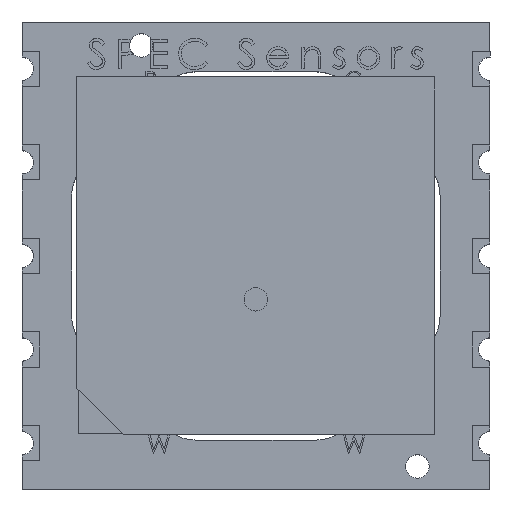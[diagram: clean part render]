
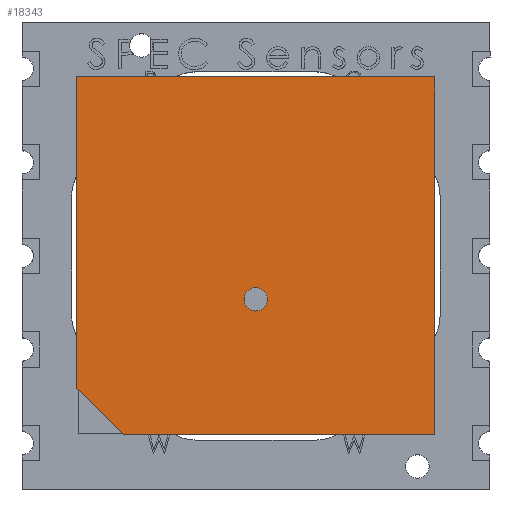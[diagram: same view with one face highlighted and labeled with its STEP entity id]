
A CAD part, top view. The second image highlights one B-rep face of the part: STEP entity #18343.
In plain terms, the highlighted planar face has unit normal (0, 0, 1).
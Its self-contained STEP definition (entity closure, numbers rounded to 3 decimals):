
#284 = EDGE_CURVE ( 'NONE', #3962, #7233, #21982, .T. ) ;
#900 = ORIENTED_EDGE ( 'NONE', *, *, #26154, .T. ) ;
#3250 = EDGE_LOOP ( 'NONE', ( #17707 ) ) ;
#3587 = CARTESIAN_POINT ( 'NONE',  ( 0., 0., 0.389 ) ) ;
#3831 = VERTEX_POINT ( 'NONE', #11724 ) ;
#3962 = VERTEX_POINT ( 'NONE', #17091 ) ;
#4600 = EDGE_CURVE ( 'NONE', #16653, #3962, #15612, .T. ) ;
#5348 = ORIENTED_EDGE ( 'NONE', *, *, #9366, .T. ) ;
#5782 = DIRECTION ( 'NONE',  ( 0., 1., 0. ) ) ;
#6059 = ORIENTED_EDGE ( 'NONE', *, *, #284, .T. ) ;
#6564 = DIRECTION ( 'NONE',  ( 1., 0., 0. ) ) ;
#7233 = VERTEX_POINT ( 'NONE', #23272 ) ;
#8119 = VERTEX_POINT ( 'NONE', #17325 ) ;
#8447 = DIRECTION ( 'NONE',  ( 0., 0., 1. ) ) ;
#8600 = EDGE_CURVE ( 'NONE', #3831, #16653, #22907, .T. ) ;
#8601 = CARTESIAN_POINT ( 'NONE',  ( -4.712, 22.389, 0.389 ) ) ;
#9260 = CIRCLE ( 'NONE', #23357, 0.5 ) ;
#9366 = EDGE_CURVE ( 'NONE', #28489, #3831, #17652, .T. ) ;
#9505 = CARTESIAN_POINT ( 'NONE',  ( -20.012, 9.089, 0.389 ) ) ;
#10124 = DIRECTION ( 'NONE',  ( 0., 0., 1. ) ) ;
#11364 = FACE_OUTER_BOUND ( 'NONE', #22616, .T. ) ;
#11724 = CARTESIAN_POINT ( 'NONE',  ( -20.012, 22.389, 0.389 ) ) ;
#13261 = ORIENTED_EDGE ( 'NONE', *, *, #4600, .T. ) ;
#13594 = DIRECTION ( 'NONE',  ( 1., 0., 0. ) ) ;
#14583 = CARTESIAN_POINT ( 'NONE',  ( -20.012, 22.389, 0.389 ) ) ;
#14914 = VECTOR ( 'NONE', #18464, 1000. ) ;
#15612 = LINE ( 'NONE', #25091, #14914 ) ;
#15688 = CARTESIAN_POINT ( 'NONE',  ( -18.012, 7.089, 0.389 ) ) ;
#16653 = VERTEX_POINT ( 'NONE', #9505 ) ;
#17026 = DIRECTION ( 'NONE',  ( -1., 0., 0. ) ) ;
#17091 = CARTESIAN_POINT ( 'NONE',  ( -18.012, 7.089, 0.389 ) ) ;
#17248 = PLANE ( 'NONE',  #26890 ) ;
#17325 = CARTESIAN_POINT ( 'NONE',  ( -11.862, 12.884, 0.389 ) ) ;
#17652 = LINE ( 'NONE', #14583, #22885 ) ;
#17707 = ORIENTED_EDGE ( 'NONE', *, *, #23728, .F. ) ;
#18343 = ADVANCED_FACE ( 'NONE', ( #23577, #11364 ), #17248, .T. ) ;
#18464 = DIRECTION ( 'NONE',  ( 0.707, -0.707, 0. ) ) ;
#19167 = CARTESIAN_POINT ( 'NONE',  ( -4.712, 22.389, 0.389 ) ) ;
#19546 = DIRECTION ( 'NONE',  ( 0., -1., 0. ) ) ;
#19588 = CARTESIAN_POINT ( 'NONE',  ( -12.362, 12.884, 0.389 ) ) ;
#20214 = VECTOR ( 'NONE', #5782, 1000. ) ;
#21982 = LINE ( 'NONE', #15688, #27214 ) ;
#22616 = EDGE_LOOP ( 'NONE', ( #900, #5348, #25905, #13261, #6059 ) ) ;
#22630 = LINE ( 'NONE', #19167, #20214 ) ;
#22885 = VECTOR ( 'NONE', #17026, 1000. ) ;
#22907 = LINE ( 'NONE', #23809, #25334 ) ;
#23272 = CARTESIAN_POINT ( 'NONE',  ( -4.712, 7.089, 0.389 ) ) ;
#23357 = AXIS2_PLACEMENT_3D ( 'NONE', #19588, #8447, #6564 ) ;
#23577 = FACE_BOUND ( 'NONE', #3250, .T. ) ;
#23728 = EDGE_CURVE ( 'NONE', #8119, #8119, #9260, .T. ) ;
#23809 = CARTESIAN_POINT ( 'NONE',  ( -20.012, 22.389, 0.389 ) ) ;
#25091 = CARTESIAN_POINT ( 'NONE',  ( -20.012, 9.089, 0.389 ) ) ;
#25334 = VECTOR ( 'NONE', #19546, 1000. ) ;
#25905 = ORIENTED_EDGE ( 'NONE', *, *, #8600, .T. ) ;
#25941 = DIRECTION ( 'NONE',  ( 1., 0., 0. ) ) ;
#26154 = EDGE_CURVE ( 'NONE', #7233, #28489, #22630, .T. ) ;
#26890 = AXIS2_PLACEMENT_3D ( 'NONE', #3587, #10124, #25941 ) ;
#27214 = VECTOR ( 'NONE', #13594, 1000. ) ;
#28489 = VERTEX_POINT ( 'NONE', #8601 ) ;
